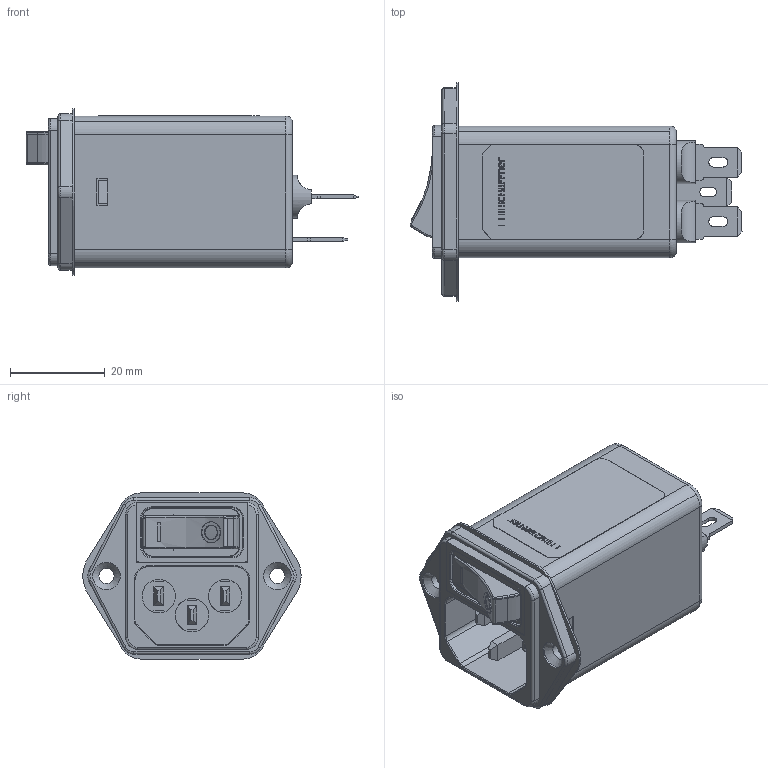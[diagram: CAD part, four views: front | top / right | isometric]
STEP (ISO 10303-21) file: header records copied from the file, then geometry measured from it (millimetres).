
FILE_DESCRIPTION((''),'2;1');
FILE_NAME('D:\_ PRODUCT\New project\3D request\FN9264\FN9264_Std_no logo.stp','2012-06-08T13:44:10',('sayan.penton'),(''),'Autodesk Inventor 2010','Autodesk Inventor 2010','');
FILE_SCHEMA(('AUTOMOTIVE_DESIGN { 1 0 10303 214 1 1 1 1 }'));
Length unit declared in the file: millimetre
Products named in the file (1): Part2
Bounding box: 69.94 x 45.98 x 35 mm (x, y, z)
Volume: 20114.3 mm3; surface area: 31810.3 mm2
Topology: 12 solids, 12 shells, 1530 faces, 4144 edges, 2686 vertices
Faces by surface type: plane 973, bspline 300, cylinder 213, torus 42, cone 2
Full cylindrical faces by diameter (mm): 1.5 x4, 2.65 x2, 3 x1, 3.2 x2, 4 x2, 4.4 x1, 5.8 x2, 7 x3, 9 x2, 9.5 x2
Entity records: 57874 total; most frequent: CARTESIAN_POINT 19000, ORIENTED_EDGE 8238, DIRECTION 6650, EDGE_CURVE 4119, VECTOR 3158, LINE 3158, VERTEX_POINT 2684, AXIS2_PLACEMENT_3D 1746
